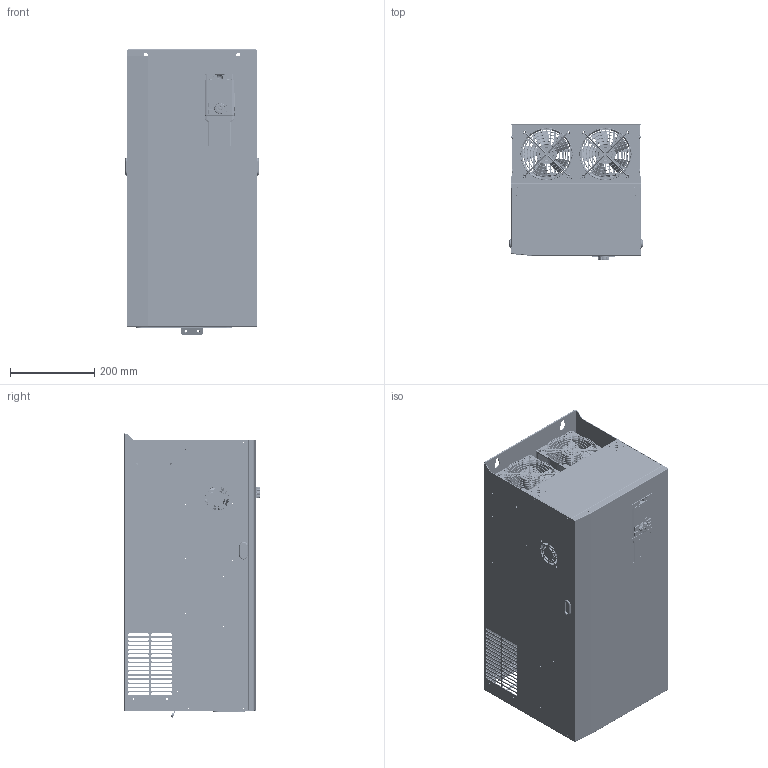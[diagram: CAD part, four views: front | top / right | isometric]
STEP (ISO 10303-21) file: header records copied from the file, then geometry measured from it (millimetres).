
FILE_DESCRIPTION((''),'2;1');
FILE_NAME('00-A8-110_ASM_170_ASM','2024-08-14T',('Administrator'),(''),'PRO/ENGINEER BY PARAMETRIC TECHNOLOGY CORPORATION, 2010280','PRO/ENGINEER BY PARAMETRIC TECHNOLOGY CORPORATION, 2010280','');
FILE_SCHEMA(('AUTOMOTIVE_DESIGN { 1 0 10303 214 1 1 1 1 }'));
Products named in the file (119): A8-110-01-01-01_81; TPS-3-10-ZC_30; TPS-4-10-ZC_30; A8-110-01-01-01_ASM_76_ASM; A8-110-01-01-02_111; BSO-M3-16-ZC_36; S-M4-ZC_38; NZ-M8-ZC_18; A8-110-01-01-02_ASM_111_ASM; A8-110-01-01-03_49; A8-110-01-01-03_ASM_58_ASM; A8-110-01-01-04_44; A8-110-01-01-04_ASM_52_ASM; A8-110-01-01-06_22; A8-110-01-01-06_ASM_26_ASM; A8-110-01-01-08_8; A8-110-01-01-08_ASM_12_ASM; A8-110-01-01-09_9; A8-110-01-01-09_ASM_12_ASM; A8-160-01-01-07_6; M10_GB13681_5; A8-160-01-01-07_ASM_11_ASM; GB12617-90_4X8_30-R0_10_19; A8-110-01-01_ASM_121_ASM; A8-110-01-02_42; A8-110-01-02_ASM_48_ASM; A8-110-01-03_47; TPS-4-8-ZC_30; A8-110-01-03_ASM_53_ASM; A8-110-01-04_48; A8-110-01-04_ASM_52_ASM; A8-110-01-05_67; S-M3-ZC_38; BSO-3R5M3-10-ZC_36; A8-110-01-05_ASM_69_ASM; A8-110-01-06_38; S-M6-ZC_38; A8-110-01-06_ASM_39_ASM; A8-110-01-07_39; A8-110-01-07_ASM_40_ASM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
Assembly tree (291 placements, depth 6):
  00-A8-110_ASM_170_ASM
    A8-110-01_ASM_121_ASM
      A8-110-01-01_ASM_121_ASM
        A8-110-01-01-01_ASM_76_ASM
          A8-110-01-01-01_81
          TPS-3-10-ZC_30  x2
          TPS-4-10-ZC_30  x2
        A8-110-01-01-02_ASM_111_ASM
          A8-110-01-01-02_111
          BSO-M3-16-ZC_36  x12
          S-M4-ZC_38  x20
          NZ-M8-ZC_18  x4
        A8-110-01-01-03_ASM_58_ASM
          A8-110-01-01-03_49
          S-M4-ZC_38  x2
        A8-110-01-01-04_ASM_52_ASM
          A8-110-01-01-04_44
          S-M4-ZC_38  x3
        A8-110-01-01-06_ASM_26_ASM  x2
          A8-110-01-01-06_22
          S-M4-ZC_38
        A8-110-01-01-08_ASM_12_ASM
          A8-110-01-01-08_8
          S-M4-ZC_38  x2
        A8-110-01-01-09_ASM_12_ASM
          A8-110-01-01-09_9
          S-M4-ZC_38  x3
        A8-160-01-01-07_ASM_11_ASM  x2
          A8-160-01-01-07_6
          M10_GB13681_5
        GB12617-90_4X8_30-R0_10_19  x48
      A8-110-01-02_ASM_48_ASM
        A8-110-01-02_42
        S-M4-ZC_38  x12
      A8-110-01-03_ASM_53_ASM
        A8-110-01-03_47
        TPS-4-8-ZC_30  x2
      A8-110-01-04_ASM_52_ASM
        A8-110-01-04_48
        S-M4-ZC_38  x8
      A8-110-01-05_ASM_69_ASM
        A8-110-01-05_67
        S-M3-ZC_38  x8
        BSO-3R5M3-10-ZC_36  x4
      A8-110-01-06_ASM_39_ASM
        A8-110-01-06_38
        S-M4-ZC_38  x5
        S-M6-ZC_38  x2
      A8-110-01-07_ASM_40_ASM
        A8-110-01-07_39
        S-M4-ZC_38  x12
      A8-37-01-05_ASM_11
    A8-110-QJ_ASM_76_ASM
      12038_8_30  x2
      119_NET_8_30_ASM  x2
        MANIFOLD_SOLID_BREP_247230
        MANIFOLD_SOLID_BREP_247367
        MANIFOLD_SOLID_BREP_247504
        MANIFOLD_SOLID_BREP_247641
        MANIFOLD_SOLID_BREP_247778
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Bounding box: 317 x 324.5 x 679.09 mm (x, y, z)
Volume: 2963783.3 mm3; surface area: 3544631 mm2
Topology: 277 solids, 291 shells, 36561 faces, 103034 edges, 69915 vertices
Faces by surface type: plane 31223, cylinder 3388, cone 1323, torus 362, bspline 199, sphere 66
Entity records: 536245 total; most frequent: CARTESIAN_POINT 93843, ORIENTED_EDGE 71124, DIRECTION 68851, EDGE_CURVE 35591, VECTOR 30073, LINE 30073, VERTEX_POINT 23366, AXIS2_PLACEMENT_3D 19389
